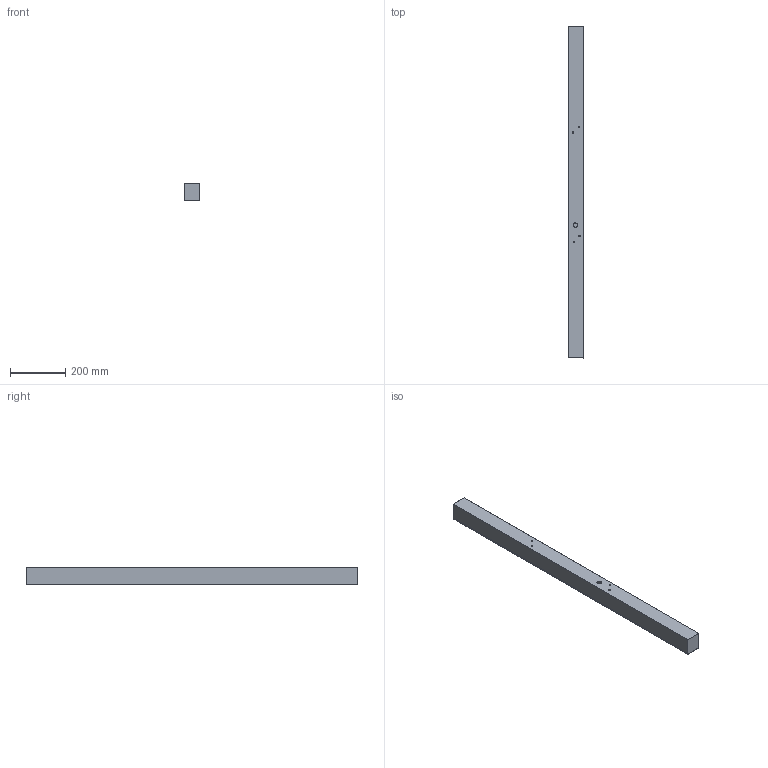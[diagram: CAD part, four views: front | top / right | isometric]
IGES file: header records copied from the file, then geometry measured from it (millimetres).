
Start section: SolidWorks IGES file using NURBS representation for surfaces
Global section: file name: Z:\Modele 3D_WWW\_KOLEKCJE_WWW\STRAIGHT\STRAIGHT-CEILING-LED-L-7551-7556-7600\STRAIGHT-CEILING-LED-L-7551-7556-7600.IGS; native system: SolidWorks 2021; preprocessor: SolidWorks 2021; author: gabriela.tworek; date: 211103.161535; units: millimetre
Bounding box: 56 x 1200 x 65 mm (x, y, z)
Surface area: 618294.7 mm2 (no closed solid volume)
Topology: 0 solids, 0 shells, 62 faces, 632 edges, 628 vertices
Faces by surface type: bspline 62
